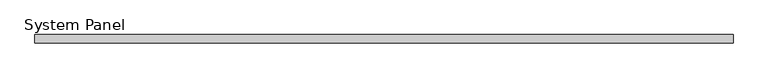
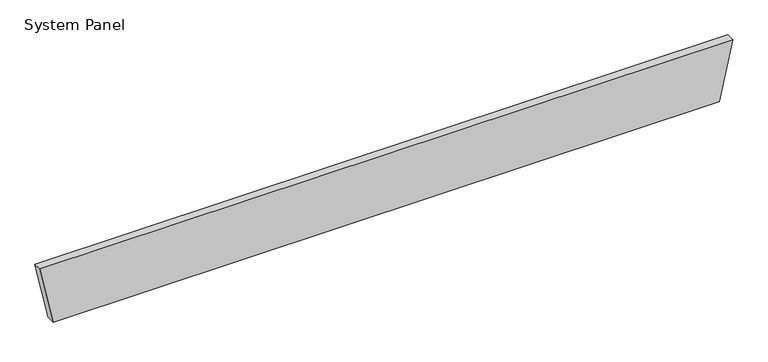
"""IFC4 building model written with IfcOpenShell, lengths in millimetres: plate geometry, System Panel : MetecnoPanel_150mm_Plain_Surfmist."""

from ifc_helpers import new_model, si_unit, frame, origin, place, context, project, spatial, polyline, outline, extrude, source, transform, mapped, element, save


def system_panel_f9ed22c7(model_context):
    return source(origin(), model_context, "Body", "SweptSolid", [
        extrude(outline(polyline([(0.0, -6000.0), (0.0, 6000.0), (1100.0, 6239.1323567), (1100.0, -6239.1323567), (0.0, -6000.0)])), frame((0.0, -150.0, 0.0), z_axis=(0.0, 1.0, 0.0), x_axis=(0.0, 0.0, 1.0)), (0.0, 0.0, 1.0), 150.0),
    ])


if __name__ == "__main__":
    model = new_model("IFC4")
    model_context = context("Model", 3, world=origin())
    ifc_project = project(units=[si_unit("LENGTHUNIT", "METRE", prefix="MILLI")], contexts=[model_context])
    site = spatial("IfcSite", under=ifc_project)
    building = spatial("IfcBuilding", under=site)
    placement = place(None, origin())
    system_panel_shape = system_panel_f9ed22c7(model_context)
    element("IfcPlate", 1, ObjectType="System Panel : MetecnoPanel_150mm_Plain_Surfmist", at=placement, inside=building, context=model_context, shape_type="MappedRepresentation", body=[
        mapped(system_panel_shape, transform((0.0, 0.0, 0.0), x_axis=(1.0, 0.0, 0.0), y_axis=(0.0, 1.0, 0.0), z_axis=(0.0, 0.0, 1.0))),
    ])
    save(model, "model.ifc")
